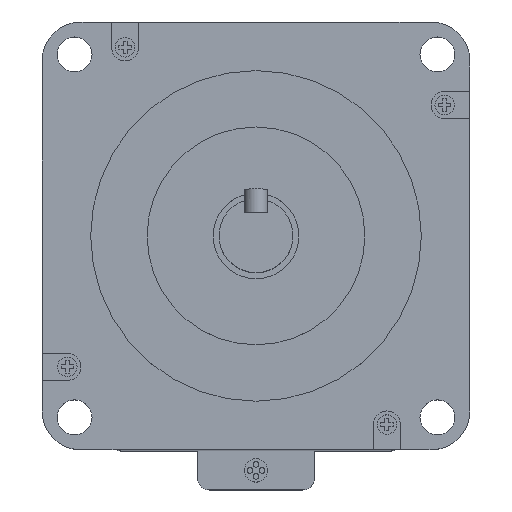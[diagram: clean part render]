
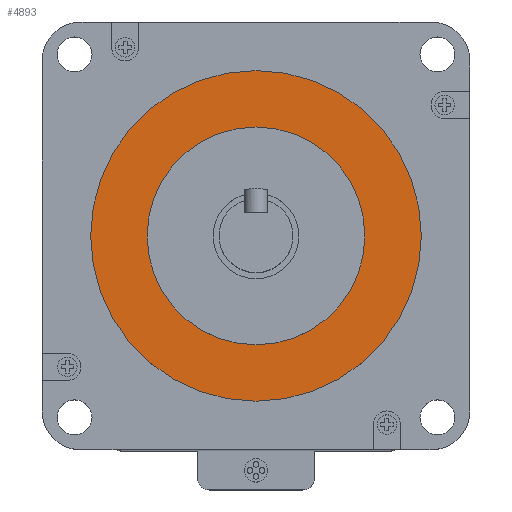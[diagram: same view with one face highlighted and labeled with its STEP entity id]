
A CAD part, top view. The second image highlights one B-rep face of the part: STEP entity #4893.
In plain terms, the highlighted planar face has unit normal (0, 0, 1).
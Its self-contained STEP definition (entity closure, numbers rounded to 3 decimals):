
#291 = DIRECTION ( 'NONE',  ( 0., 0., -1. ) ) ;
#331 = CARTESIAN_POINT ( 'NONE',  ( 0., 0., 3.5 ) ) ;
#396 = FACE_OUTER_BOUND ( 'NONE', #1353, .T. ) ;
#555 = DIRECTION ( 'NONE',  ( -1., 0., 0. ) ) ;
#852 = CIRCLE ( 'NONE', #3811, 42.5 ) ;
#958 = CARTESIAN_POINT ( 'NONE',  ( 0., 0., 3.5 ) ) ;
#1105 = DIRECTION ( 'NONE',  ( -1., 0., 0. ) ) ;
#1282 = CARTESIAN_POINT ( 'NONE',  ( 0., 0., 3.5 ) ) ;
#1353 = EDGE_LOOP ( 'NONE', ( #3191, #3225 ) ) ;
#1673 = EDGE_CURVE ( 'NONE', #4038, #5655, #2756, .T. ) ;
#1855 = CIRCLE ( 'NONE', #6369, 28. ) ;
#2048 = PLANE ( 'NONE',  #9562 ) ;
#2141 = CARTESIAN_POINT ( 'NONE',  ( 28., 0., 3.5 ) ) ;
#2144 = CARTESIAN_POINT ( 'NONE',  ( 42.5, 0., 3.5 ) ) ;
#2756 = CIRCLE ( 'NONE', #2991, 28. ) ;
#2991 = AXIS2_PLACEMENT_3D ( 'NONE', #331, #5610, #1105 ) ;
#3191 = ORIENTED_EDGE ( 'NONE', *, *, #3789, .F. ) ;
#3225 = ORIENTED_EDGE ( 'NONE', *, *, #7590, .F. ) ;
#3240 = EDGE_LOOP ( 'NONE', ( #6710, #9062 ) ) ;
#3789 = EDGE_CURVE ( 'NONE', #8233, #6540, #852, .T. ) ;
#3811 = AXIS2_PLACEMENT_3D ( 'NONE', #958, #291, #5498 ) ;
#4038 = VERTEX_POINT ( 'NONE', #9292 ) ;
#4346 = DIRECTION ( 'NONE',  ( -1., 0., 0. ) ) ;
#4361 = CARTESIAN_POINT ( 'NONE',  ( 0., 0., 3.5 ) ) ;
#4859 = AXIS2_PLACEMENT_3D ( 'NONE', #5732, #5004, #4346 ) ;
#4893 = ADVANCED_FACE ( 'NONE', ( #8095, #396 ), #2048, .F. ) ;
#5004 = DIRECTION ( 'NONE',  ( 0., 0., -1. ) ) ;
#5185 = CARTESIAN_POINT ( 'NONE',  ( -42.5, 0., 3.5 ) ) ;
#5498 = DIRECTION ( 'NONE',  ( -1., 0., 0. ) ) ;
#5610 = DIRECTION ( 'NONE',  ( 0., 0., 1. ) ) ;
#5655 = VERTEX_POINT ( 'NONE', #2141 ) ;
#5732 = CARTESIAN_POINT ( 'NONE',  ( 0., 0., 3.5 ) ) ;
#5931 = DIRECTION ( 'NONE',  ( 0., 0., 1. ) ) ;
#6369 = AXIS2_PLACEMENT_3D ( 'NONE', #4361, #5931, #6630 ) ;
#6540 = VERTEX_POINT ( 'NONE', #2144 ) ;
#6630 = DIRECTION ( 'NONE',  ( -1., 0., 0. ) ) ;
#6641 = DIRECTION ( 'NONE',  ( 0., 0., -1. ) ) ;
#6710 = ORIENTED_EDGE ( 'NONE', *, *, #1673, .F. ) ;
#7097 = EDGE_CURVE ( 'NONE', #5655, #4038, #1855, .T. ) ;
#7590 = EDGE_CURVE ( 'NONE', #6540, #8233, #7715, .T. ) ;
#7715 = CIRCLE ( 'NONE', #4859, 42.5 ) ;
#8095 = FACE_BOUND ( 'NONE', #3240, .T. ) ;
#8233 = VERTEX_POINT ( 'NONE', #5185 ) ;
#9062 = ORIENTED_EDGE ( 'NONE', *, *, #7097, .F. ) ;
#9292 = CARTESIAN_POINT ( 'NONE',  ( -28., 0., 3.5 ) ) ;
#9562 = AXIS2_PLACEMENT_3D ( 'NONE', #1282, #6641, #555 ) ;
